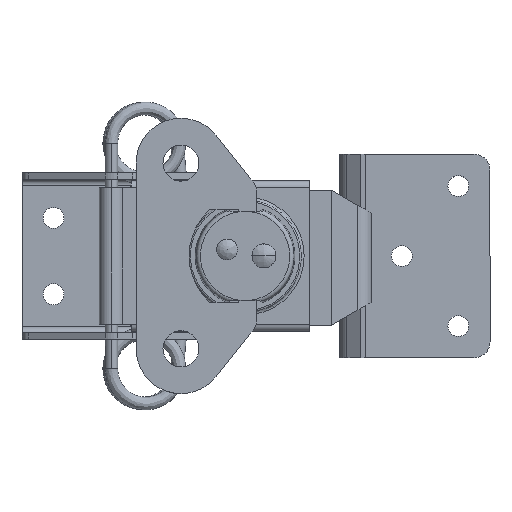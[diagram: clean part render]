
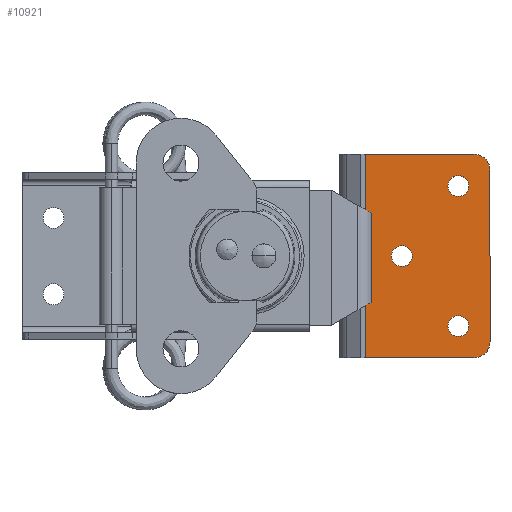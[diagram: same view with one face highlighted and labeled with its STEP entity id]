
A CAD part, top view. The second image highlights one B-rep face of the part: STEP entity #10921.
In plain terms, the highlighted planar face has unit normal (0, 0, 1).
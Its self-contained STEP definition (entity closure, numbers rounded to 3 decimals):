
#10452=CARTESIAN_POINT('',(-14.86,88.005,-11.461));
#10453=VERTEX_POINT('',#10452);
#10469=CARTESIAN_POINT('',(-20.07,88.005,-11.461));
#10470=VERTEX_POINT('',#10469);
#10477=CARTESIAN_POINT('',(-17.465,88.005,-11.461));
#10478=DIRECTION('',(0.0,0.0,-1.0));
#10479=DIRECTION('',(1.0,0.0,0.0));
#10480=AXIS2_PLACEMENT_3D('',#10477,#10478,#10479);
#10481=CIRCLE('',#10480,2.605);
#10482=EDGE_CURVE('',#10453,#10470,#10481,.T.);
#10494=CARTESIAN_POINT('',(2.605,73.905,-11.461));
#10495=VERTEX_POINT('',#10494);
#10511=CARTESIAN_POINT('',(-2.605,73.905,-11.461));
#10512=VERTEX_POINT('',#10511);
#10519=CARTESIAN_POINT('',(0.,73.905,-11.461));
#10520=DIRECTION('',(0.0,0.0,-1.0));
#10521=DIRECTION('',(1.0,0.0,0.0));
#10522=AXIS2_PLACEMENT_3D('',#10519,#10520,#10521);
#10523=CIRCLE('',#10522,2.605);
#10524=EDGE_CURVE('',#10495,#10512,#10523,.T.);
#10536=CARTESIAN_POINT('',(20.07,88.005,-11.461));
#10537=VERTEX_POINT('',#10536);
#10553=CARTESIAN_POINT('',(14.86,88.005,-11.461));
#10554=VERTEX_POINT('',#10553);
#10561=CARTESIAN_POINT('',(17.465,88.005,-11.461));
#10562=DIRECTION('',(0.0,0.0,-1.0));
#10563=DIRECTION('',(1.0,0.0,0.0));
#10564=AXIS2_PLACEMENT_3D('',#10561,#10562,#10563);
#10565=CIRCLE('',#10564,2.605);
#10566=EDGE_CURVE('',#10537,#10554,#10565,.T.);
#10577=CARTESIAN_POINT('',(17.465,88.005,-11.461));
#10578=DIRECTION('',(0.0,0.0,-1.0));
#10579=DIRECTION('',(1.0,0.0,0.0));
#10580=AXIS2_PLACEMENT_3D('',#10577,#10578,#10579);
#10581=CIRCLE('',#10580,2.605);
#10582=EDGE_CURVE('',#10554,#10537,#10581,.T.);
#10601=CARTESIAN_POINT('',(0.,73.905,-11.461));
#10602=DIRECTION('',(0.0,0.0,-1.0));
#10603=DIRECTION('',(1.0,0.0,0.0));
#10604=AXIS2_PLACEMENT_3D('',#10601,#10602,#10603);
#10605=CIRCLE('',#10604,2.605);
#10606=EDGE_CURVE('',#10512,#10495,#10605,.T.);
#10702=CARTESIAN_POINT('',(-25.4,62.765,-11.461));
#10703=VERTEX_POINT('',#10702);
#10711=CARTESIAN_POINT('',(-25.4,91.905,-11.461));
#10712=VERTEX_POINT('',#10711);
#10713=CARTESIAN_POINT('',(-25.4,62.765,-11.461));
#10714=DIRECTION('',(0.0,1.0,0.0));
#10715=VECTOR('',#10714,29.14);
#10716=LINE('',#10713,#10715);
#10717=EDGE_CURVE('',#10703,#10712,#10716,.T.);
#10767=CARTESIAN_POINT('',(-21.4,95.905,-11.461));
#10768=VERTEX_POINT('',#10767);
#10769=CARTESIAN_POINT('',(-21.4,91.905,-11.461));
#10770=DIRECTION('',(0.0,0.0,-1.0));
#10771=DIRECTION('',(0.0,1.0,0.0));
#10772=AXIS2_PLACEMENT_3D('',#10769,#10770,#10771);
#10773=CIRCLE('',#10772,4.);
#10774=EDGE_CURVE('',#10712,#10768,#10773,.T.);
#10831=CARTESIAN_POINT('',(25.4,91.905,-11.461));
#10832=VERTEX_POINT('',#10831);
#10839=CARTESIAN_POINT('',(25.4,62.765,-11.461));
#10840=VERTEX_POINT('',#10839);
#10841=CARTESIAN_POINT('',(25.4,91.905,-11.461));
#10842=DIRECTION('',(0.0,-1.0,0.0));
#10843=VECTOR('',#10842,29.14);
#10844=LINE('',#10841,#10843);
#10845=EDGE_CURVE('',#10832,#10840,#10844,.T.);
#10872=CARTESIAN_POINT('',(-27.94,61.108,-11.461));
#10873=DIRECTION('',(0.0,0.0,1.0));
#10874=DIRECTION('',(1.0,0.0,0.0));
#10875=AXIS2_PLACEMENT_3D('',#10872,#10873,#10874);
#10876=PLANE('',#10875);
#10877=CARTESIAN_POINT('',(-25.4,62.765,-11.461));
#10878=DIRECTION('',(1.0,0.0,0.0));
#10879=VECTOR('',#10878,50.8);
#10880=LINE('',#10877,#10879);
#10881=EDGE_CURVE('',#10703,#10840,#10880,.T.);
#10882=ORIENTED_EDGE('',*,*,#10881,.T.);
#10883=ORIENTED_EDGE('',*,*,#10845,.F.);
#10884=CARTESIAN_POINT('',(21.4,95.905,-11.461));
#10885=VERTEX_POINT('',#10884);
#10886=CARTESIAN_POINT('',(21.4,91.905,-11.461));
#10887=DIRECTION('',(0.0,0.0,-1.0));
#10888=DIRECTION('',(0.0,-1.0,0.0));
#10889=AXIS2_PLACEMENT_3D('',#10886,#10887,#10888);
#10890=CIRCLE('',#10889,4.);
#10891=EDGE_CURVE('',#10885,#10832,#10890,.T.);
#10892=ORIENTED_EDGE('',*,*,#10891,.F.);
#10893=CARTESIAN_POINT('',(-21.4,95.905,-11.461));
#10894=DIRECTION('',(1.0,0.0,0.0));
#10895=VECTOR('',#10894,42.8);
#10896=LINE('',#10893,#10895);
#10897=EDGE_CURVE('',#10768,#10885,#10896,.T.);
#10898=ORIENTED_EDGE('',*,*,#10897,.F.);
#10899=ORIENTED_EDGE('',*,*,#10774,.F.);
#10900=ORIENTED_EDGE('',*,*,#10717,.F.);
#10901=EDGE_LOOP('',(#10882,#10883,#10892,#10898,#10899,#10900));
#10902=FACE_OUTER_BOUND('',#10901,.T.);
#10903=ORIENTED_EDGE('',*,*,#10566,.T.);
#10904=ORIENTED_EDGE('',*,*,#10582,.T.);
#10905=EDGE_LOOP('',(#10903,#10904));
#10906=FACE_BOUND('',#10905,.T.);
#10907=ORIENTED_EDGE('',*,*,#10524,.T.);
#10908=ORIENTED_EDGE('',*,*,#10606,.T.);
#10909=EDGE_LOOP('',(#10907,#10908));
#10910=FACE_BOUND('',#10909,.T.);
#10911=ORIENTED_EDGE('',*,*,#10482,.T.);
#10912=CARTESIAN_POINT('',(-17.465,88.005,-11.461));
#10913=DIRECTION('',(0.0,0.0,-1.0));
#10914=DIRECTION('',(1.0,0.0,0.0));
#10915=AXIS2_PLACEMENT_3D('',#10912,#10913,#10914);
#10916=CIRCLE('',#10915,2.605);
#10917=EDGE_CURVE('',#10470,#10453,#10916,.T.);
#10918=ORIENTED_EDGE('',*,*,#10917,.T.);
#10919=EDGE_LOOP('',(#10911,#10918));
#10920=FACE_BOUND('',#10919,.T.);
#10921=ADVANCED_FACE('',(#10902,#10906,#10910,#10920),#10876,.T.);
